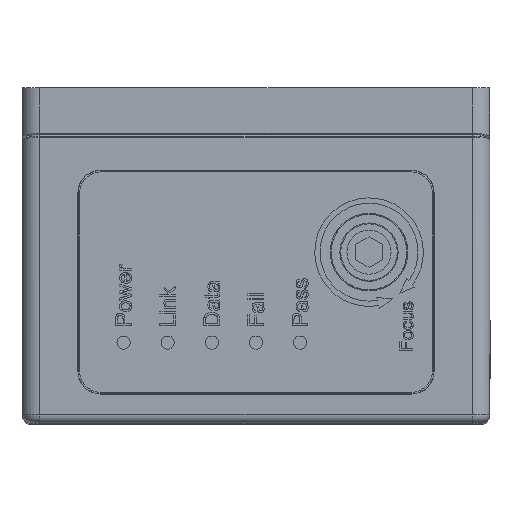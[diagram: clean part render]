
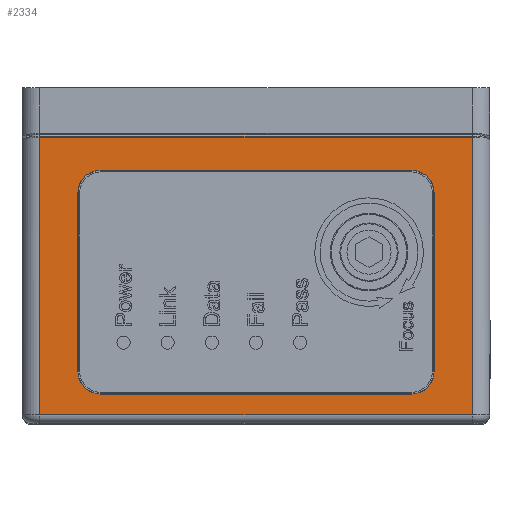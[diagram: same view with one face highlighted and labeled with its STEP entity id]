
A CAD part, top view. The second image highlights one B-rep face of the part: STEP entity #2334.
In plain terms, the highlighted planar face has unit normal (0, 0, 1).
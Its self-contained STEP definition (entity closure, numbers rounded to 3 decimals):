
#2334 = ADVANCED_FACE( '', ( #4999, #5000 ), #5001, .F. );
#4999 = FACE_BOUND( '', #12004, .T. );
#5000 = FACE_OUTER_BOUND( '', #12005, .T. );
#5001 = PLANE( '', #12006 );
#12004 = EDGE_LOOP( '', ( #20511, #20512, #20513, #20514, #20515, #20516, #20517, #20518 ) );
#12005 = EDGE_LOOP( '', ( #20519, #20520, #20521, #20522 ) );
#12006 = AXIS2_PLACEMENT_3D( '', #20523, #20524, #20525 );
#20511 = ORIENTED_EDGE( '', *, *, #24900, .F. );
#20512 = ORIENTED_EDGE( '', *, *, #24120, .F. );
#20513 = ORIENTED_EDGE( '', *, *, #24901, .F. );
#20514 = ORIENTED_EDGE( '', *, *, #24828, .F. );
#20515 = ORIENTED_EDGE( '', *, *, #24314, .F. );
#20516 = ORIENTED_EDGE( '', *, *, #23824, .F. );
#20517 = ORIENTED_EDGE( '', *, *, #24369, .F. );
#20518 = ORIENTED_EDGE( '', *, *, #22323, .F. );
#20519 = ORIENTED_EDGE( '', *, *, #23620, .T. );
#20520 = ORIENTED_EDGE( '', *, *, #23499, .T. );
#20521 = ORIENTED_EDGE( '', *, *, #24666, .T. );
#20522 = ORIENTED_EDGE( '', *, *, #23595, .T. );
#20523 = CARTESIAN_POINT( '', ( -26.5, 0.681, 28.4 ) );
#20524 = DIRECTION( '', ( 0., 0., -1. ) );
#20525 = DIRECTION( '', ( 0., -1., 0. ) );
#22323 = EDGE_CURVE( '', #25556, #25557, #25558, .F. );
#23499 = EDGE_CURVE( '', #27532, #27537, #27539, .T. );
#23595 = EDGE_CURVE( '', #27679, #27677, #27680, .T. );
#23620 = EDGE_CURVE( '', #27677, #27532, #27720, .T. );
#23824 = EDGE_CURVE( '', #28012, #28013, #28014, .F. );
#24120 = EDGE_CURVE( '', #28419, #28420, #28421, .F. );
#24314 = EDGE_CURVE( '', #28013, #28673, #28674, .F. );
#24369 = EDGE_CURVE( '', #25557, #28012, #28746, .F. );
#24666 = EDGE_CURVE( '', #27537, #27679, #29107, .F. );
#24828 = EDGE_CURVE( '', #28673, #29280, #29281, .F. );
#24900 = EDGE_CURVE( '', #28420, #25556, #29362, .F. );
#24901 = EDGE_CURVE( '', #29280, #28419, #29363, .F. );
#25556 = VERTEX_POINT( '', #30943 );
#25557 = VERTEX_POINT( '', #30944 );
#25558 = CIRCLE( '', #30945, 2.519 );
#27532 = VERTEX_POINT( '', #36151 );
#27537 = VERTEX_POINT( '', #36157 );
#27539 = LINE( '', #36159, #36160 );
#27677 = VERTEX_POINT( '', #36443 );
#27679 = VERTEX_POINT( '', #36445 );
#27680 = LINE( '', #36446, #36447 );
#27720 = LINE( '', #36511, #36512 );
#28012 = VERTEX_POINT( '', #37099 );
#28013 = VERTEX_POINT( '', #37100 );
#28014 = CIRCLE( '', #37101, 2.519 );
#28419 = VERTEX_POINT( '', #38234 );
#28420 = VERTEX_POINT( '', #38235 );
#28421 = CIRCLE( '', #38236, 2.519 );
#28673 = VERTEX_POINT( '', #38880 );
#28674 = LINE( '', #38881, #38882 );
#28746 = LINE( '', #39064, #39065 );
#29107 = LINE( '', #39886, #39887 );
#29280 = VERTEX_POINT( '', #40237 );
#29281 = CIRCLE( '', #40238, 2.519 );
#29362 = LINE( '', #40357, #40358 );
#29363 = LINE( '', #40359, #40360 );
#30943 = CARTESIAN_POINT( '', ( 20.167, -5.17, 28.4 ) );
#30944 = CARTESIAN_POINT( '', ( 17.648, -2.651, 28.4 ) );
#30945 = AXIS2_PLACEMENT_3D( '', #40997, #40998, #40999 );
#36151 = CARTESIAN_POINT( '', ( -24.5, -30.319, 28.4 ) );
#36157 = CARTESIAN_POINT( '', ( 24.5, -30.319, 28.4 ) );
#36159 = CARTESIAN_POINT( '', ( -26.5, -30.319, 28.4 ) );
#36160 = VECTOR( '', #41889, 1000. );
#36443 = CARTESIAN_POINT( '', ( -24.5, 1.192, 28.4 ) );
#36445 = CARTESIAN_POINT( '', ( 24.5, 1.192, 28.4 ) );
#36446 = CARTESIAN_POINT( '', ( -26.5, 1.192, 28.4 ) );
#36447 = VECTOR( '', #41964, 1000. );
#36511 = CARTESIAN_POINT( '', ( -24.5, 0.681, 28.4 ) );
#36512 = VECTOR( '', #41995, 1000. );
#37099 = CARTESIAN_POINT( '', ( -17.648, -2.651, 28.4 ) );
#37100 = CARTESIAN_POINT( '', ( -20.167, -5.17, 28.4 ) );
#37101 = AXIS2_PLACEMENT_3D( '', #42168, #42169, #42170 );
#38234 = CARTESIAN_POINT( '', ( 17.648, -27.986, 28.4 ) );
#38235 = CARTESIAN_POINT( '', ( 20.167, -25.467, 28.4 ) );
#38236 = AXIS2_PLACEMENT_3D( '', #42369, #42370, #42371 );
#38880 = CARTESIAN_POINT( '', ( -20.167, -25.467, 28.4 ) );
#38881 = CARTESIAN_POINT( '', ( -20.167, -15.319, 28.4 ) );
#38882 = VECTOR( '', #42481, 1000. );
#39064 = CARTESIAN_POINT( '', ( 0., -2.651, 28.4 ) );
#39065 = VECTOR( '', #42516, 1000. );
#39886 = CARTESIAN_POINT( '', ( 24.5, 0.681, 28.4 ) );
#39887 = VECTOR( '', #42728, 1000. );
#40237 = CARTESIAN_POINT( '', ( -17.648, -27.986, 28.4 ) );
#40238 = AXIS2_PLACEMENT_3D( '', #42801, #42802, #42803 );
#40357 = CARTESIAN_POINT( '', ( 20.167, -15.319, 28.4 ) );
#40358 = VECTOR( '', #42856, 1000. );
#40359 = CARTESIAN_POINT( '', ( 0., -27.986, 28.4 ) );
#40360 = VECTOR( '', #42857, 1000. );
#40997 = CARTESIAN_POINT( '', ( 17.648, -5.17, 28.4 ) );
#40998 = DIRECTION( '', ( 0., 0., -1. ) );
#40999 = DIRECTION( '', ( 0., -1., 0. ) );
#41889 = DIRECTION( '', ( 1., 0., 0. ) );
#41964 = DIRECTION( '', ( -1., 0., 0. ) );
#41995 = DIRECTION( '', ( 0., -1., 0. ) );
#42168 = CARTESIAN_POINT( '', ( -17.648, -5.17, 28.4 ) );
#42169 = DIRECTION( '', ( 0., 0., -1. ) );
#42170 = DIRECTION( '', ( 0., -1., 0. ) );
#42369 = CARTESIAN_POINT( '', ( 17.648, -25.467, 28.4 ) );
#42370 = DIRECTION( '', ( 0., 0., -1. ) );
#42371 = DIRECTION( '', ( 0., -1., 0. ) );
#42481 = DIRECTION( '', ( 0., 1., 0. ) );
#42516 = DIRECTION( '', ( 1., 0., 0. ) );
#42728 = DIRECTION( '', ( 0., -1., 0. ) );
#42801 = CARTESIAN_POINT( '', ( -17.648, -25.467, 28.4 ) );
#42802 = DIRECTION( '', ( 0., 0., -1. ) );
#42803 = DIRECTION( '', ( 0., -1., 0. ) );
#42856 = DIRECTION( '', ( 0., -1., 0. ) );
#42857 = DIRECTION( '', ( -1., 0., 0. ) );
